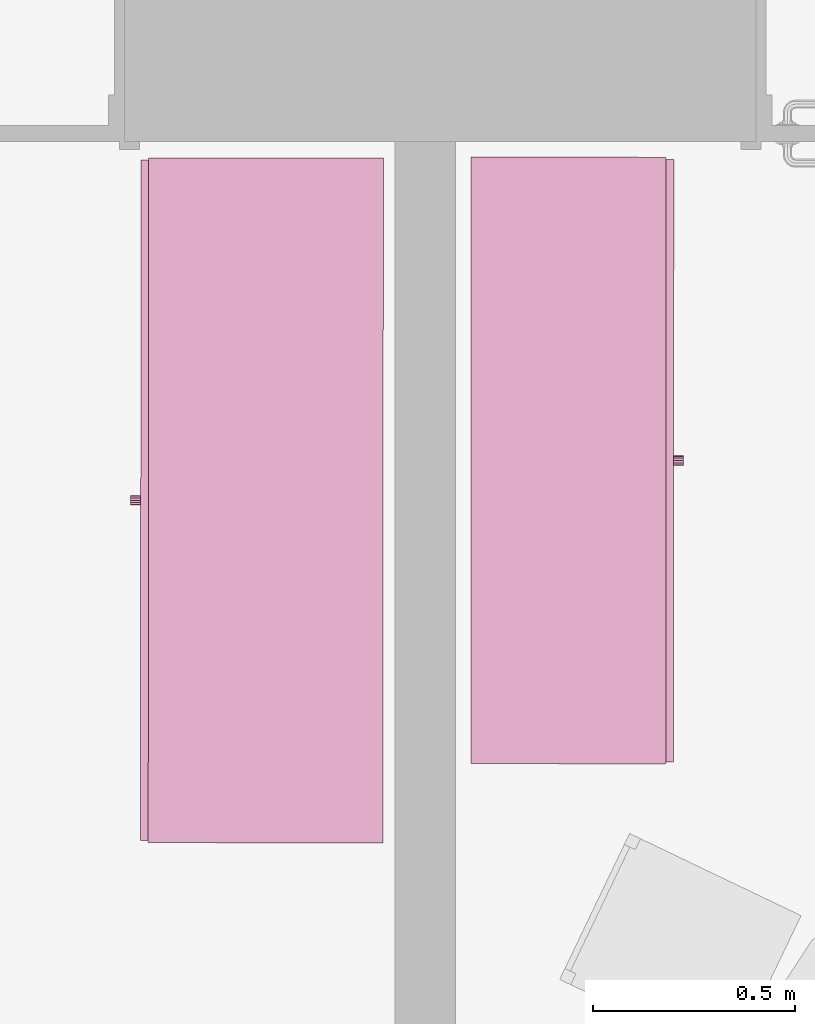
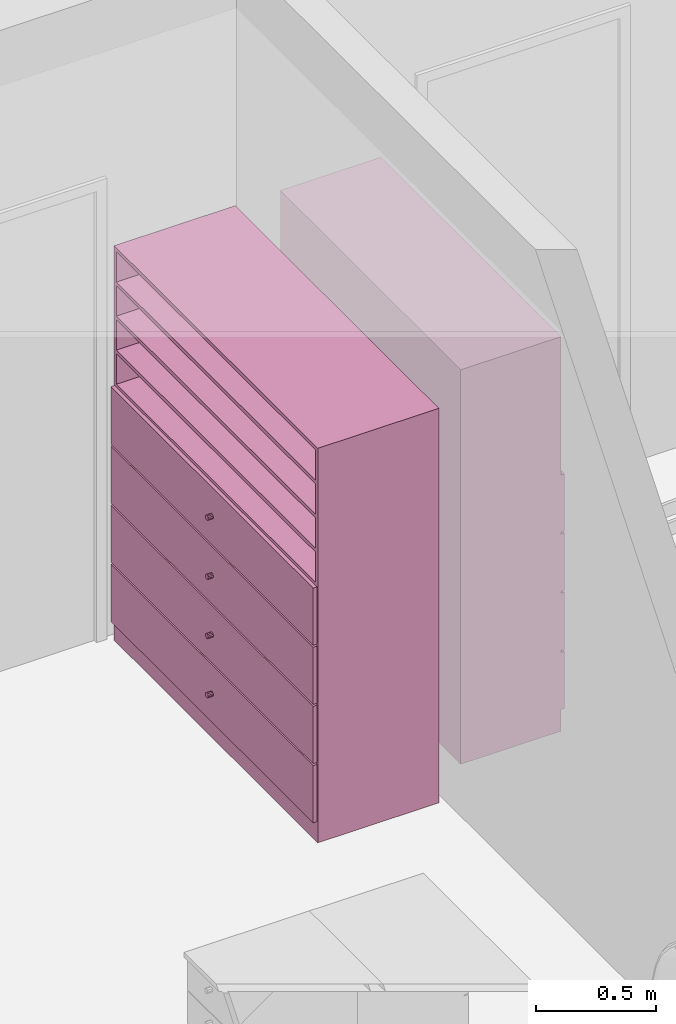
# One storey, part 130 of 194: 2 furnishings.
"""IFC2X3 building model written with IfcOpenShell, lengths in millimetres."""

from ifc_helpers import new_model, entity, si_unit, converted_unit, derived_unit, money_unit, direction, frame, origin_with_axes, place, context, subcontext, project, spatial, faceted_brep, source, transform, mapped, type_object, element, save


model = new_model("IFC2X3")

# Units and contexts
model_context = context("Model", 3, precision=1e-05, world=origin_with_axes(), true_north=direction((0.0, 1.0)))
body_context = subcontext(model_context, "Body", "Model", "MODEL_VIEW")
ifc_project = project(units=[si_unit("LENGTHUNIT", "METRE", prefix="MILLI"), si_unit("AREAUNIT", "SQUARE_METRE"), si_unit("VOLUMEUNIT", "CUBIC_METRE"), converted_unit("PLANEANGLEUNIT", "DEGREE", entity("IfcPlaneAngleMeasure", 0.0174532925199), si_unit("PLANEANGLEUNIT", "RADIAN"), dimensions=[0, 0, 0, 0, 0, 0, 0]), si_unit("SOLIDANGLEUNIT", "STERADIAN"), money_unit("EUR"), converted_unit("TIMEUNIT", "Year", entity("IfcTimeMeasure", 31556926.0), si_unit("TIMEUNIT", "SECOND"), dimensions=[0, 0, 1, 0, 0, 0, 0]), si_unit("MASSUNIT", "GRAM", prefix="KILO"), si_unit("THERMODYNAMICTEMPERATUREUNIT", "DEGREE_CELSIUS"), si_unit("LUMINOUSINTENSITYUNIT", "LUMEN"), si_unit("ENERGYUNIT", "JOULE", prefix="MEGA"), derived_unit("THERMALCONDUCTANCEUNIT", [(si_unit("POWERUNIT", "WATT"), 1), (si_unit("LENGTHUNIT", "METRE"), -1), (si_unit("THERMODYNAMICTEMPERATUREUNIT", "KELVIN"), -1)]), derived_unit("SPECIFICHEATCAPACITYUNIT", [(si_unit("ENERGYUNIT", "JOULE"), 1), (si_unit("MASSUNIT", "GRAM", prefix="KILO"), -1), (si_unit("THERMODYNAMICTEMPERATUREUNIT", "KELVIN"), -1)]), derived_unit("MASSDENSITYUNIT", [(si_unit("MASSUNIT", "GRAM", prefix="KILO"), 1), (si_unit("VOLUMEUNIT", "CUBIC_METRE"), -1)])], contexts=[model_context])

# Site, building, storey
site_placement = place(None, origin_with_axes())
site = spatial("IfcSite", under=ifc_project, at=site_placement, Name="Site", CompositionType="ELEMENT")
building_placement = place(site_placement, origin_with_axes())
building = spatial("IfcBuilding", under=site, at=building_placement, Name="Building", CompositionType="ELEMENT")
storey_placement = place(building_placement, frame((0.0, 0.0, 3000.0), z_axis=(0.0, 0.0, 1.0), x_axis=(1.0, 0.0, 0.0)))
storey = spatial("IfcBuildingStorey", under=building, at=storey_placement, Name="2 KORRUS", CompositionType="ELEMENT", Elevation=3000.0)

# Furnishings
furnishing_element_type_1 = type_object("IfcFurnishingElementType", Name="Model Element 59")
shared_shape_1 = source(origin_with_axes(), body_context, "Body", "Brep", [
    faceted_brep([(1500.0, 19.0, 0.0), (0.0, 19.0, 0.0), (0.0, 501.019199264, 0.0), (1500.0, 501.019199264, 0.0), (1500.0, 19.0, 100.0), (0.0, 19.0, 100.0), (0.0, 501.019199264, 100.0), (1500.0, 501.019199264, 100.0)], [[[0, 1, 2, 3]], [[1, 0, 4, 5]], [[2, 1, 5, 6]], [[3, 2, 6, 7]], [[0, 3, 7, 4]], [[5, 4, 7, 6]]]),
    faceted_brep([(19.0, 501.019199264, 119.0), (19.0, 482.019199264, 119.0), (19.0, 482.019199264, 1981.0), (19.0, 501.019199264, 1981.0), (1481.0, 501.019199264, 119.0), (1481.0, 482.019199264, 119.0), (1481.0, 482.019199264, 1981.0), (1481.0, 501.019199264, 1981.0)], [[[0, 1, 2, 3]], [[0, 4, 5, 1]], [[1, 5, 6, 2]], [[3, 2, 6, 7]], [[4, 0, 3, 7]], [[5, 4, 7, 6]]]),
    faceted_brep([(1500.0, 19.0, 100.0), (1481.0, 19.0, 100.0), (1481.0, 501.019199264, 100.0), (1500.0, 501.019199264, 100.0), (1500.0, 19.0, 2000.0), (1481.0, 19.0, 2000.0), (1481.0, 501.019199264, 2000.0), (1500.0, 501.019199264, 2000.0)], [[[0, 1, 2, 3]], [[1, 0, 4, 5]], [[2, 1, 5, 6]], [[3, 2, 6, 7]], [[0, 3, 7, 4]], [[5, 4, 7, 6]]]),
    faceted_brep([(19.0, 19.0, 100.0), (0.0, 19.0, 100.0), (0.0, 501.019199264, 100.0), (19.0, 501.019199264, 100.0), (19.0, 19.0, 2000.0), (0.0, 19.0, 2000.0), (0.0, 501.019199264, 2000.0), (19.0, 501.019199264, 2000.0)], [[[0, 1, 2, 3]], [[1, 0, 4, 5]], [[2, 1, 5, 6]], [[3, 2, 6, 7]], [[0, 3, 7, 4]], [[5, 4, 7, 6]]]),
    faceted_brep([(1481.0, 19.0, 100.0), (19.0, 19.0, 100.0), (19.0, 501.019199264, 100.0), (1481.0, 501.019199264, 100.0), (1481.0, 19.0, 119.0), (19.0, 19.0, 119.0), (19.0, 501.019199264, 119.0), (1481.0, 501.019199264, 119.0)], [[[0, 1, 2, 3]], [[1, 0, 4, 5]], [[2, 1, 5, 6]], [[3, 2, 6, 7]], [[0, 3, 7, 4]], [[5, 4, 7, 6]]]),
    faceted_brep([(1481.0, 19.0, 1981.0), (19.0, 19.0, 1981.0), (19.0, 501.019199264, 1981.0), (1481.0, 501.019199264, 1981.0), (1481.0, 19.0, 2000.0), (19.0, 19.0, 2000.0), (19.0, 501.019199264, 2000.0), (1481.0, 501.019199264, 2000.0)], [[[0, 1, 2, 3]], [[1, 0, 4, 5]], [[2, 1, 5, 6]], [[3, 2, 6, 7]], [[0, 3, 7, 4]], [[5, 4, 7, 6]]]),
    faceted_brep([(5.0, 19.0, 105.0), (1495.0, 19.0, 105.0), (1495.0, 0.0, 105.0), (5.0, 0.0, 105.0), (5.0, 19.0, 395.0), (1495.0, 19.0, 395.0), (1495.0, 0.0, 395.0), (5.0, 0.0, 395.0)], [[[0, 1, 2, 3]], [[0, 4, 5, 1]], [[1, 5, 6, 2]], [[3, 2, 6, 7]], [[4, 0, 3, 7]], [[5, 4, 7, 6]]]),
    faceted_brep([(760.392304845, 0.0, 244.0), (756.0, 0.0, 239.607695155), (750.0, 0.0, 238.0), (744.0, 0.0, 239.607695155), (739.607695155, 0.0, 244.0), (738.0, 0.0, 250.0), (739.607695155, 0.0, 256.0), (744.0, 0.0, 260.392304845), (750.0, 0.0, 262.0), (756.0, 0.0, 260.392304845), (760.392304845, 0.0, 256.0), (762.0, 0.0, 250.0), (760.392304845, -25.0, 244.0), (756.0, -25.0, 239.607695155), (750.0, -25.0, 238.0), (744.0, -25.0, 239.607695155), (739.607695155, -25.0, 244.0), (738.0, -25.0, 250.0), (739.607695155, -25.0, 256.0), (744.0, -25.0, 260.392304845), (750.0, -25.0, 262.0), (756.0, -25.0, 260.392304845), (760.392304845, -25.0, 256.0), (762.0, -25.0, 250.0)], [[[0, 1, 2, 3, 4, 5, 6, 7, 8, 9, 10, 11]], [[1, 0, 12, 13]], [[2, 1, 13, 14]], [[3, 2, 14, 15]], [[4, 3, 15, 16]], [[5, 4, 16, 17]], [[6, 5, 17, 18]], [[7, 6, 18, 19]], [[8, 7, 19, 20]], [[9, 8, 20, 21]], [[10, 9, 21, 22]], [[11, 10, 22, 23]], [[0, 11, 23, 12]], [[12, 23, 22, 21, 20, 19, 18, 17, 16, 15, 14, 13]]]),
    faceted_brep([(5.0, 19.0, 405.0), (1495.0, 19.0, 405.0), (1495.0, 0.0, 405.0), (5.0, 0.0, 405.0), (5.0, 19.0, 695.0), (1495.0, 19.0, 695.0), (1495.0, 0.0, 695.0), (5.0, 0.0, 695.0)], [[[0, 1, 2, 3]], [[0, 4, 5, 1]], [[1, 5, 6, 2]], [[3, 2, 6, 7]], [[4, 0, 3, 7]], [[5, 4, 7, 6]]]),
    faceted_brep([(760.392304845, 0.0, 544.0), (756.0, 0.0, 539.607695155), (750.0, 0.0, 538.0), (744.0, 0.0, 539.607695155), (739.607695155, 0.0, 544.0), (738.0, 0.0, 550.0), (739.607695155, 0.0, 556.0), (744.0, 0.0, 560.392304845), (750.0, 0.0, 562.0), (756.0, 0.0, 560.392304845), (760.392304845, 0.0, 556.0), (762.0, 0.0, 550.0), (760.392304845, -25.0, 544.0), (756.0, -25.0, 539.607695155), (750.0, -25.0, 538.0), (744.0, -25.0, 539.607695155), (739.607695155, -25.0, 544.0), (738.0, -25.0, 550.0), (739.607695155, -25.0, 556.0), (744.0, -25.0, 560.392304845), (750.0, -25.0, 562.0), (756.0, -25.0, 560.392304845), (760.392304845, -25.0, 556.0), (762.0, -25.0, 550.0)], [[[0, 1, 2, 3, 4, 5, 6, 7, 8, 9, 10, 11]], [[1, 0, 12, 13]], [[2, 1, 13, 14]], [[3, 2, 14, 15]], [[4, 3, 15, 16]], [[5, 4, 16, 17]], [[6, 5, 17, 18]], [[7, 6, 18, 19]], [[8, 7, 19, 20]], [[9, 8, 20, 21]], [[10, 9, 21, 22]], [[11, 10, 22, 23]], [[0, 11, 23, 12]], [[12, 23, 22, 21, 20, 19, 18, 17, 16, 15, 14, 13]]]),
    faceted_brep([(5.0, 19.0, 705.0), (1495.0, 19.0, 705.0), (1495.0, 0.0, 705.0), (5.0, 0.0, 705.0), (5.0, 19.0, 995.0), (1495.0, 19.0, 995.0), (1495.0, 0.0, 995.0), (5.0, 0.0, 995.0)], [[[0, 1, 2, 3]], [[0, 4, 5, 1]], [[1, 5, 6, 2]], [[3, 2, 6, 7]], [[4, 0, 3, 7]], [[5, 4, 7, 6]]]),
    faceted_brep([(760.392304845, 0.0, 844.0), (756.0, 0.0, 839.607695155), (750.0, 0.0, 838.0), (744.0, 0.0, 839.607695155), (739.607695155, 0.0, 844.0), (738.0, 0.0, 850.0), (739.607695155, 0.0, 856.0), (744.0, 0.0, 860.392304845), (750.0, 0.0, 862.0), (756.0, 0.0, 860.392304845), (760.392304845, 0.0, 856.0), (762.0, 0.0, 850.0), (760.392304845, -25.0, 844.0), (756.0, -25.0, 839.607695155), (750.0, -25.0, 838.0), (744.0, -25.0, 839.607695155), (739.607695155, -25.0, 844.0), (738.0, -25.0, 850.0), (739.607695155, -25.0, 856.0), (744.0, -25.0, 860.392304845), (750.0, -25.0, 862.0), (756.0, -25.0, 860.392304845), (760.392304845, -25.0, 856.0), (762.0, -25.0, 850.0)], [[[0, 1, 2, 3, 4, 5, 6, 7, 8, 9, 10, 11]], [[1, 0, 12, 13]], [[2, 1, 13, 14]], [[3, 2, 14, 15]], [[4, 3, 15, 16]], [[5, 4, 16, 17]], [[6, 5, 17, 18]], [[7, 6, 18, 19]], [[8, 7, 19, 20]], [[9, 8, 20, 21]], [[10, 9, 21, 22]], [[11, 10, 22, 23]], [[0, 11, 23, 12]], [[12, 23, 22, 21, 20, 19, 18, 17, 16, 15, 14, 13]]]),
    faceted_brep([(5.0, 19.0, 1005.0), (1495.0, 19.0, 1005.0), (1495.0, 0.0, 1005.0), (5.0, 0.0, 1005.0), (5.0, 19.0, 1295.0), (1495.0, 19.0, 1295.0), (1495.0, 0.0, 1295.0), (5.0, 0.0, 1295.0)], [[[0, 1, 2, 3]], [[0, 4, 5, 1]], [[1, 5, 6, 2]], [[3, 2, 6, 7]], [[4, 0, 3, 7]], [[5, 4, 7, 6]]]),
    faceted_brep([(760.392304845, 0.0, 1144.0), (756.0, 0.0, 1139.60769515), (750.0, 0.0, 1138.0), (744.0, 0.0, 1139.60769515), (739.607695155, 0.0, 1144.0), (738.0, 0.0, 1150.0), (739.607695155, 0.0, 1156.0), (744.0, 0.0, 1160.39230485), (750.0, 0.0, 1162.0), (756.0, 0.0, 1160.39230485), (760.392304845, 0.0, 1156.0), (762.0, 0.0, 1150.0), (760.392304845, -25.0, 1144.0), (756.0, -25.0, 1139.60769515), (750.0, -25.0, 1138.0), (744.0, -25.0, 1139.60769515), (739.607695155, -25.0, 1144.0), (738.0, -25.0, 1150.0), (739.607695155, -25.0, 1156.0), (744.0, -25.0, 1160.39230485), (750.0, -25.0, 1162.0), (756.0, -25.0, 1160.39230485), (760.392304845, -25.0, 1156.0), (762.0, -25.0, 1150.0)], [[[0, 1, 2, 3, 4, 5, 6, 7, 8, 9, 10, 11]], [[1, 0, 12, 13]], [[2, 1, 13, 14]], [[3, 2, 14, 15]], [[4, 3, 15, 16]], [[5, 4, 16, 17]], [[6, 5, 17, 18]], [[7, 6, 18, 19]], [[8, 7, 19, 20]], [[9, 8, 20, 21]], [[10, 9, 21, 22]], [[11, 10, 22, 23]], [[0, 11, 23, 12]], [[12, 23, 22, 21, 20, 19, 18, 17, 16, 15, 14, 13]]]),
    faceted_brep([(19.0, 19.0, 390.5), (1481.0, 19.0, 390.5), (1481.0, 19.0, 409.5), (19.0, 19.0, 409.5), (19.0, 482.019199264, 390.5), (1481.0, 482.019199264, 390.5), (1481.0, 482.019199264, 409.5), (19.0, 482.019199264, 409.5)], [[[0, 1, 2, 3]], [[0, 4, 5, 1]], [[1, 5, 6, 2]], [[3, 2, 6, 7]], [[4, 0, 3, 7]], [[5, 4, 7, 6]]]),
    faceted_brep([(19.0, 19.0, 690.5), (1481.0, 19.0, 690.5), (1481.0, 19.0, 709.5), (19.0, 19.0, 709.5), (19.0, 482.019199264, 690.5), (1481.0, 482.019199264, 690.5), (1481.0, 482.019199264, 709.5), (19.0, 482.019199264, 709.5)], [[[0, 1, 2, 3]], [[0, 4, 5, 1]], [[1, 5, 6, 2]], [[3, 2, 6, 7]], [[4, 0, 3, 7]], [[5, 4, 7, 6]]]),
    faceted_brep([(19.0, 19.0, 990.5), (1481.0, 19.0, 990.5), (1481.0, 19.0, 1009.5), (19.0, 19.0, 1009.5), (19.0, 482.019199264, 990.5), (1481.0, 482.019199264, 990.5), (1481.0, 482.019199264, 1009.5), (19.0, 482.019199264, 1009.5)], [[[0, 1, 2, 3]], [[0, 4, 5, 1]], [[1, 5, 6, 2]], [[3, 2, 6, 7]], [[4, 0, 3, 7]], [[5, 4, 7, 6]]]),
    faceted_brep([(19.0, 19.0, 1290.5), (1481.0, 19.0, 1290.5), (1481.0, 19.0, 1309.5), (19.0, 19.0, 1309.5), (19.0, 482.019199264, 1290.5), (1481.0, 482.019199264, 1290.5), (1481.0, 482.019199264, 1309.5), (19.0, 482.019199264, 1309.5)], [[[0, 1, 2, 3]], [[0, 4, 5, 1]], [[1, 5, 6, 2]], [[3, 2, 6, 7]], [[4, 0, 3, 7]], [[5, 4, 7, 6]]]),
    faceted_brep([(1481.0, 19.0, 1463.125), (19.0, 19.0, 1463.125), (19.0, 482.019199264, 1463.125), (1481.0, 482.019199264, 1463.125), (1481.0, 19.0, 1482.125), (19.0, 19.0, 1482.125), (19.0, 482.019199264, 1482.125), (1481.0, 482.019199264, 1482.125)], [[[0, 1, 2, 3]], [[1, 0, 4, 5]], [[2, 1, 5, 6]], [[3, 2, 6, 7]], [[0, 3, 7, 4]], [[5, 4, 7, 6]]]),
    faceted_brep([(1481.0, 19.0, 1635.75), (19.0, 19.0, 1635.75), (19.0, 482.019199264, 1635.75), (1481.0, 482.019199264, 1635.75), (1481.0, 19.0, 1654.75), (19.0, 19.0, 1654.75), (19.0, 482.019199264, 1654.75), (1481.0, 482.019199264, 1654.75)], [[[0, 1, 2, 3]], [[1, 0, 4, 5]], [[2, 1, 5, 6]], [[3, 2, 6, 7]], [[0, 3, 7, 4]], [[5, 4, 7, 6]]]),
    faceted_brep([(1481.0, 19.0, 1808.375), (19.0, 19.0, 1808.375), (19.0, 482.019199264, 1808.375), (1481.0, 482.019199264, 1808.375), (1481.0, 19.0, 1827.375), (19.0, 19.0, 1827.375), (19.0, 482.019199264, 1827.375), (1481.0, 482.019199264, 1827.375)], [[[0, 1, 2, 3]], [[1, 0, 4, 5]], [[2, 1, 5, 6]], [[3, 2, 6, 7]], [[0, 3, 7, 4]], [[5, 4, 7, 6]]]),
])
furnishing_1_placement = place(storey_placement, frame((34693.7766056, 39143.2271179, 0.0), z_axis=(0.0, 0.0, 1.0), x_axis=(0.000642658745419, 0.999999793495, 0.0)))
element("IfcFurnishingElement", 1, at=furnishing_1_placement, inside=storey, type_object=furnishing_element_type_1, Name="FU - 001", context=body_context, shape_type="MappedRepresentation", body=[
    mapped(shared_shape_1, transform((0.0, 0.0, 0.0))),
])
furnishing_element_type_2 = type_object("IfcFurnishingElementType", Name="Model Element 52")
shared_shape_2 = source(origin_with_axes(), body_context, "Body", "Brep", [
    faceted_brep([(1693.4828307, 19.0, 0.0), (0.0, 19.0, 0.0), (0.0, 599.467164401, 0.0), (1693.4828307, 599.467164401, 0.0), (1693.4828307, 19.0, 100.0), (0.0, 19.0, 100.0), (0.0, 599.467164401, 100.0), (1693.4828307, 599.467164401, 100.0)], [[[0, 1, 2, 3]], [[1, 0, 4, 5]], [[2, 1, 5, 6]], [[3, 2, 6, 7]], [[0, 3, 7, 4]], [[5, 4, 7, 6]]]),
    faceted_brep([(19.0, 599.467164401, 119.0), (19.0, 580.467164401, 119.0), (19.0, 580.467164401, 1981.0), (19.0, 599.467164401, 1981.0), (1674.4828307, 599.467164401, 119.0), (1674.4828307, 580.467164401, 119.0), (1674.4828307, 580.467164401, 1981.0), (1674.4828307, 599.467164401, 1981.0)], [[[0, 1, 2, 3]], [[0, 4, 5, 1]], [[1, 5, 6, 2]], [[3, 2, 6, 7]], [[4, 0, 3, 7]], [[5, 4, 7, 6]]]),
    faceted_brep([(1693.4828307, 19.0, 100.0), (1674.4828307, 19.0, 100.0), (1674.4828307, 599.467164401, 100.0), (1693.4828307, 599.467164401, 100.0), (1693.4828307, 19.0, 2000.0), (1674.4828307, 19.0, 2000.0), (1674.4828307, 599.467164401, 2000.0), (1693.4828307, 599.467164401, 2000.0)], [[[0, 1, 2, 3]], [[1, 0, 4, 5]], [[2, 1, 5, 6]], [[3, 2, 6, 7]], [[0, 3, 7, 4]], [[5, 4, 7, 6]]]),
    faceted_brep([(19.0, 19.0, 100.0), (0.0, 19.0, 100.0), (0.0, 599.467164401, 100.0), (19.0, 599.467164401, 100.0), (19.0, 19.0, 2000.0), (0.0, 19.0, 2000.0), (0.0, 599.467164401, 2000.0), (19.0, 599.467164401, 2000.0)], [[[0, 1, 2, 3]], [[1, 0, 4, 5]], [[2, 1, 5, 6]], [[3, 2, 6, 7]], [[0, 3, 7, 4]], [[5, 4, 7, 6]]]),
    faceted_brep([(1674.4828307, 19.0, 100.0), (19.0, 19.0, 100.0), (19.0, 599.467164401, 100.0), (1674.4828307, 599.467164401, 100.0), (1674.4828307, 19.0, 119.0), (19.0, 19.0, 119.0), (19.0, 599.467164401, 119.0), (1674.4828307, 599.467164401, 119.0)], [[[0, 1, 2, 3]], [[1, 0, 4, 5]], [[2, 1, 5, 6]], [[3, 2, 6, 7]], [[0, 3, 7, 4]], [[5, 4, 7, 6]]]),
    faceted_brep([(1674.4828307, 19.0, 1981.0), (19.0, 19.0, 1981.0), (19.0, 599.467164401, 1981.0), (1674.4828307, 599.467164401, 1981.0), (1674.4828307, 19.0, 2000.0), (19.0, 19.0, 2000.0), (19.0, 599.467164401, 2000.0), (1674.4828307, 599.467164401, 2000.0)], [[[0, 1, 2, 3]], [[1, 0, 4, 5]], [[2, 1, 5, 6]], [[3, 2, 6, 7]], [[0, 3, 7, 4]], [[5, 4, 7, 6]]]),
    faceted_brep([(5.0, 19.0, 105.0), (1688.4828307, 19.0, 105.0), (1688.4828307, 0.0, 105.0), (5.0, 0.0, 105.0), (5.0, 19.0, 395.0), (1688.4828307, 19.0, 395.0), (1688.4828307, 0.0, 395.0), (5.0, 0.0, 395.0)], [[[0, 1, 2, 3]], [[0, 4, 5, 1]], [[1, 5, 6, 2]], [[3, 2, 6, 7]], [[4, 0, 3, 7]], [[5, 4, 7, 6]]]),
    faceted_brep([(857.133720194, 0.0, 244.0), (852.741415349, 0.0, 239.607695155), (846.741415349, 0.0, 238.0), (840.741415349, 0.0, 239.607695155), (836.349110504, 0.0, 244.0), (834.741415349, 0.0, 250.0), (836.349110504, 0.0, 256.0), (840.741415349, 0.0, 260.392304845), (846.741415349, 0.0, 262.0), (852.741415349, 0.0, 260.392304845), (857.133720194, 0.0, 256.0), (858.741415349, 0.0, 250.0), (857.133720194, -25.0, 244.0), (852.741415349, -25.0, 239.607695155), (846.741415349, -25.0, 238.0), (840.741415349, -25.0, 239.607695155), (836.349110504, -25.0, 244.0), (834.741415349, -25.0, 250.0), (836.349110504, -25.0, 256.0), (840.741415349, -25.0, 260.392304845), (846.741415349, -25.0, 262.0), (852.741415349, -25.0, 260.392304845), (857.133720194, -25.0, 256.0), (858.741415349, -25.0, 250.0)], [[[0, 1, 2, 3, 4, 5, 6, 7, 8, 9, 10, 11]], [[1, 0, 12, 13]], [[2, 1, 13, 14]], [[3, 2, 14, 15]], [[4, 3, 15, 16]], [[5, 4, 16, 17]], [[6, 5, 17, 18]], [[7, 6, 18, 19]], [[8, 7, 19, 20]], [[9, 8, 20, 21]], [[10, 9, 21, 22]], [[11, 10, 22, 23]], [[0, 11, 23, 12]], [[12, 23, 22, 21, 20, 19, 18, 17, 16, 15, 14, 13]]]),
    faceted_brep([(5.0, 19.0, 405.0), (1688.4828307, 19.0, 405.0), (1688.4828307, 0.0, 405.0), (5.0, 0.0, 405.0), (5.0, 19.0, 695.0), (1688.4828307, 19.0, 695.0), (1688.4828307, 0.0, 695.0), (5.0, 0.0, 695.0)], [[[0, 1, 2, 3]], [[0, 4, 5, 1]], [[1, 5, 6, 2]], [[3, 2, 6, 7]], [[4, 0, 3, 7]], [[5, 4, 7, 6]]]),
    faceted_brep([(857.133720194, 0.0, 544.0), (852.741415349, 0.0, 539.607695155), (846.741415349, 0.0, 538.0), (840.741415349, 0.0, 539.607695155), (836.349110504, 0.0, 544.0), (834.741415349, 0.0, 550.0), (836.349110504, 0.0, 556.0), (840.741415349, 0.0, 560.392304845), (846.741415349, 0.0, 562.0), (852.741415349, 0.0, 560.392304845), (857.133720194, 0.0, 556.0), (858.741415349, 0.0, 550.0), (857.133720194, -25.0, 544.0), (852.741415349, -25.0, 539.607695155), (846.741415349, -25.0, 538.0), (840.741415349, -25.0, 539.607695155), (836.349110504, -25.0, 544.0), (834.741415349, -25.0, 550.0), (836.349110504, -25.0, 556.0), (840.741415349, -25.0, 560.392304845), (846.741415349, -25.0, 562.0), (852.741415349, -25.0, 560.392304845), (857.133720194, -25.0, 556.0), (858.741415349, -25.0, 550.0)], [[[0, 1, 2, 3, 4, 5, 6, 7, 8, 9, 10, 11]], [[1, 0, 12, 13]], [[2, 1, 13, 14]], [[3, 2, 14, 15]], [[4, 3, 15, 16]], [[5, 4, 16, 17]], [[6, 5, 17, 18]], [[7, 6, 18, 19]], [[8, 7, 19, 20]], [[9, 8, 20, 21]], [[10, 9, 21, 22]], [[11, 10, 22, 23]], [[0, 11, 23, 12]], [[12, 23, 22, 21, 20, 19, 18, 17, 16, 15, 14, 13]]]),
    faceted_brep([(5.0, 19.0, 705.0), (1688.4828307, 19.0, 705.0), (1688.4828307, 0.0, 705.0), (5.0, 0.0, 705.0), (5.0, 19.0, 995.0), (1688.4828307, 19.0, 995.0), (1688.4828307, 0.0, 995.0), (5.0, 0.0, 995.0)], [[[0, 1, 2, 3]], [[0, 4, 5, 1]], [[1, 5, 6, 2]], [[3, 2, 6, 7]], [[4, 0, 3, 7]], [[5, 4, 7, 6]]]),
    faceted_brep([(857.133720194, 0.0, 844.0), (852.741415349, 0.0, 839.607695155), (846.741415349, 0.0, 838.0), (840.741415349, 0.0, 839.607695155), (836.349110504, 0.0, 844.0), (834.741415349, 0.0, 850.0), (836.349110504, 0.0, 856.0), (840.741415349, 0.0, 860.392304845), (846.741415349, 0.0, 862.0), (852.741415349, 0.0, 860.392304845), (857.133720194, 0.0, 856.0), (858.741415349, 0.0, 850.0), (857.133720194, -25.0, 844.0), (852.741415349, -25.0, 839.607695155), (846.741415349, -25.0, 838.0), (840.741415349, -25.0, 839.607695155), (836.349110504, -25.0, 844.0), (834.741415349, -25.0, 850.0), (836.349110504, -25.0, 856.0), (840.741415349, -25.0, 860.392304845), (846.741415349, -25.0, 862.0), (852.741415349, -25.0, 860.392304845), (857.133720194, -25.0, 856.0), (858.741415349, -25.0, 850.0)], [[[0, 1, 2, 3, 4, 5, 6, 7, 8, 9, 10, 11]], [[1, 0, 12, 13]], [[2, 1, 13, 14]], [[3, 2, 14, 15]], [[4, 3, 15, 16]], [[5, 4, 16, 17]], [[6, 5, 17, 18]], [[7, 6, 18, 19]], [[8, 7, 19, 20]], [[9, 8, 20, 21]], [[10, 9, 21, 22]], [[11, 10, 22, 23]], [[0, 11, 23, 12]], [[12, 23, 22, 21, 20, 19, 18, 17, 16, 15, 14, 13]]]),
    faceted_brep([(5.0, 19.0, 1005.0), (1688.4828307, 19.0, 1005.0), (1688.4828307, 0.0, 1005.0), (5.0, 0.0, 1005.0), (5.0, 19.0, 1295.0), (1688.4828307, 19.0, 1295.0), (1688.4828307, 0.0, 1295.0), (5.0, 0.0, 1295.0)], [[[0, 1, 2, 3]], [[0, 4, 5, 1]], [[1, 5, 6, 2]], [[3, 2, 6, 7]], [[4, 0, 3, 7]], [[5, 4, 7, 6]]]),
    faceted_brep([(857.133720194, 0.0, 1144.0), (852.741415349, 0.0, 1139.60769515), (846.741415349, 0.0, 1138.0), (840.741415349, 0.0, 1139.60769515), (836.349110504, 0.0, 1144.0), (834.741415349, 0.0, 1150.0), (836.349110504, 0.0, 1156.0), (840.741415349, 0.0, 1160.39230485), (846.741415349, 0.0, 1162.0), (852.741415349, 0.0, 1160.39230485), (857.133720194, 0.0, 1156.0), (858.741415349, 0.0, 1150.0), (857.133720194, -25.0, 1144.0), (852.741415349, -25.0, 1139.60769515), (846.741415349, -25.0, 1138.0), (840.741415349, -25.0, 1139.60769515), (836.349110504, -25.0, 1144.0), (834.741415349, -25.0, 1150.0), (836.349110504, -25.0, 1156.0), (840.741415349, -25.0, 1160.39230485), (846.741415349, -25.0, 1162.0), (852.741415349, -25.0, 1160.39230485), (857.133720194, -25.0, 1156.0), (858.741415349, -25.0, 1150.0)], [[[0, 1, 2, 3, 4, 5, 6, 7, 8, 9, 10, 11]], [[1, 0, 12, 13]], [[2, 1, 13, 14]], [[3, 2, 14, 15]], [[4, 3, 15, 16]], [[5, 4, 16, 17]], [[6, 5, 17, 18]], [[7, 6, 18, 19]], [[8, 7, 19, 20]], [[9, 8, 20, 21]], [[10, 9, 21, 22]], [[11, 10, 22, 23]], [[0, 11, 23, 12]], [[12, 23, 22, 21, 20, 19, 18, 17, 16, 15, 14, 13]]]),
    faceted_brep([(19.0, 19.0, 390.5), (1674.4828307, 19.0, 390.5), (1674.4828307, 19.0, 409.5), (19.0, 19.0, 409.5), (19.0, 580.467164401, 390.5), (1674.4828307, 580.467164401, 390.5), (1674.4828307, 580.467164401, 409.5), (19.0, 580.467164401, 409.5)], [[[0, 1, 2, 3]], [[0, 4, 5, 1]], [[1, 5, 6, 2]], [[3, 2, 6, 7]], [[4, 0, 3, 7]], [[5, 4, 7, 6]]]),
    faceted_brep([(19.0, 19.0, 690.5), (1674.4828307, 19.0, 690.5), (1674.4828307, 19.0, 709.5), (19.0, 19.0, 709.5), (19.0, 580.467164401, 690.5), (1674.4828307, 580.467164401, 690.5), (1674.4828307, 580.467164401, 709.5), (19.0, 580.467164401, 709.5)], [[[0, 1, 2, 3]], [[0, 4, 5, 1]], [[1, 5, 6, 2]], [[3, 2, 6, 7]], [[4, 0, 3, 7]], [[5, 4, 7, 6]]]),
    faceted_brep([(19.0, 19.0, 990.5), (1674.4828307, 19.0, 990.5), (1674.4828307, 19.0, 1009.5), (19.0, 19.0, 1009.5), (19.0, 580.467164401, 990.5), (1674.4828307, 580.467164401, 990.5), (1674.4828307, 580.467164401, 1009.5), (19.0, 580.467164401, 1009.5)], [[[0, 1, 2, 3]], [[0, 4, 5, 1]], [[1, 5, 6, 2]], [[3, 2, 6, 7]], [[4, 0, 3, 7]], [[5, 4, 7, 6]]]),
    faceted_brep([(19.0, 19.0, 1290.5), (1674.4828307, 19.0, 1290.5), (1674.4828307, 19.0, 1309.5), (19.0, 19.0, 1309.5), (19.0, 580.467164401, 1290.5), (1674.4828307, 580.467164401, 1290.5), (1674.4828307, 580.467164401, 1309.5), (19.0, 580.467164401, 1309.5)], [[[0, 1, 2, 3]], [[0, 4, 5, 1]], [[1, 5, 6, 2]], [[3, 2, 6, 7]], [[4, 0, 3, 7]], [[5, 4, 7, 6]]]),
    faceted_brep([(1674.4828307, 19.0, 1463.125), (19.0, 19.0, 1463.125), (19.0, 580.467164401, 1463.125), (1674.4828307, 580.467164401, 1463.125), (1674.4828307, 19.0, 1482.125), (19.0, 19.0, 1482.125), (19.0, 580.467164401, 1482.125), (1674.4828307, 580.467164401, 1482.125)], [[[0, 1, 2, 3]], [[1, 0, 4, 5]], [[2, 1, 5, 6]], [[3, 2, 6, 7]], [[0, 3, 7, 4]], [[5, 4, 7, 6]]]),
    faceted_brep([(1674.4828307, 19.0, 1635.75), (19.0, 19.0, 1635.75), (19.0, 580.467164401, 1635.75), (1674.4828307, 580.467164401, 1635.75), (1674.4828307, 19.0, 1654.75), (19.0, 19.0, 1654.75), (19.0, 580.467164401, 1654.75), (1674.4828307, 580.467164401, 1654.75)], [[[0, 1, 2, 3]], [[1, 0, 4, 5]], [[2, 1, 5, 6]], [[3, 2, 6, 7]], [[0, 3, 7, 4]], [[5, 4, 7, 6]]]),
    faceted_brep([(1674.4828307, 19.0, 1808.375), (19.0, 19.0, 1808.375), (19.0, 580.467164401, 1808.375), (1674.4828307, 580.467164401, 1808.375), (1674.4828307, 19.0, 1827.375), (19.0, 19.0, 1827.375), (19.0, 580.467164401, 1827.375), (1674.4828307, 580.467164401, 1827.375)], [[[0, 1, 2, 3]], [[1, 0, 4, 5]], [[2, 1, 5, 6]], [[3, 2, 6, 7]], [[0, 3, 7, 4]], [[5, 4, 7, 6]]]),
])
furnishing_2_placement = place(storey_placement, frame((33376.9615254, 40641.645757, 0.0), z_axis=(0.0, 0.0, 1.0), x_axis=(-0.00064265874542, -0.999999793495, 0.0)))
element("IfcFurnishingElement", 2, at=furnishing_2_placement, inside=storey, type_object=furnishing_element_type_2, Name="FU - 001", context=body_context, shape_type="MappedRepresentation", body=[
    mapped(shared_shape_2, transform((0.0, 0.0, 0.0))),
])

save(model, "model.ifc")
